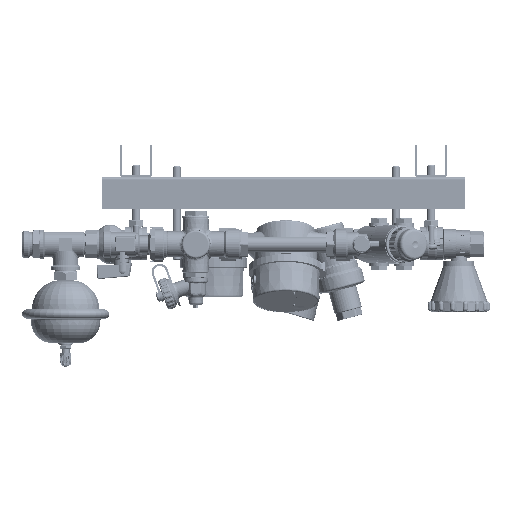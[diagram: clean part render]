
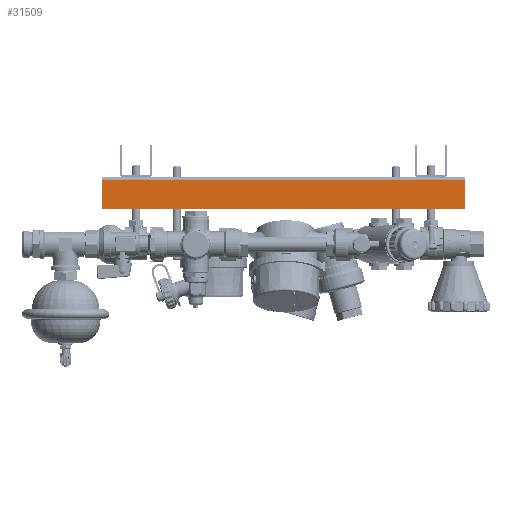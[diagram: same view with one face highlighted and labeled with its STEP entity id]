
A CAD part, left-side view. The second image highlights one B-rep face of the part: STEP entity #31509.
In plain terms, the highlighted planar face has unit normal (-1, 0, 0).
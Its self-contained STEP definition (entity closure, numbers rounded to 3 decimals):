
#31509=ADVANCED_FACE('',(#134269),#134271,.T.);
#134269=FACE_BOUND('',#134270,.T.);
#134270=EDGE_LOOP('',(#293499,#293500,#293501,#293502));
#134271=PLANE('',#134272);
#134272=AXIS2_PLACEMENT_3D('',#134273,#134274,#134275);
#134273=CARTESIAN_POINT('',(-15.5,-350.,-31.2));
#134274=DIRECTION('',(-1.,0.,0.));
#134275=DIRECTION('',(0.,0.,1.));
#293499=ORIENTED_EDGE('',*,*,#364864,.T.);
#293500=ORIENTED_EDGE('',*,*,#364887,.T.);
#293501=ORIENTED_EDGE('',*,*,#364876,.F.);
#293502=ORIENTED_EDGE('',*,*,#364890,.F.);
#364864=EDGE_CURVE('',#423238,#423236,#423239,.T.);
#364876=EDGE_CURVE('',#423257,#423259,#423260,.T.);
#364887=EDGE_CURVE('',#423236,#423259,#423273,.T.);
#364890=EDGE_CURVE('',#423238,#423257,#423276,.T.);
#423236=VERTEX_POINT('',#643307);
#423238=VERTEX_POINT('',#643312);
#423239=LINE('',#643313,#643314);
#423257=VERTEX_POINT('',#643357);
#423259=VERTEX_POINT('',#643361);
#423260=LINE('',#643362,#643363);
#423273=LINE('',#643399,#643400);
#423276=LINE('',#643408,#643409);
#643307=CARTESIAN_POINT('',(-15.5,-350.,-2.5));
#643312=CARTESIAN_POINT('',(-15.5,-350.,-31.2));
#643313=CARTESIAN_POINT('',(-15.5,-350.,-31.2));
#643314=VECTOR('',#643315,1.);
#643315=DIRECTION('',(0.,0.,1.));
#643357=CARTESIAN_POINT('',(-15.5,0.,-31.2));
#643361=CARTESIAN_POINT('',(-15.5,0.,-2.5));
#643362=CARTESIAN_POINT('',(-15.5,0.,-31.2));
#643363=VECTOR('',#643364,1.);
#643364=DIRECTION('',(0.,0.,1.));
#643399=CARTESIAN_POINT('',(-15.5,-350.,-2.5));
#643400=VECTOR('',#643401,1.);
#643401=DIRECTION('',(0.,1.,0.));
#643408=CARTESIAN_POINT('',(-15.5,-350.,-31.2));
#643409=VECTOR('',#643410,1.);
#643410=DIRECTION('',(0.,1.,0.));
